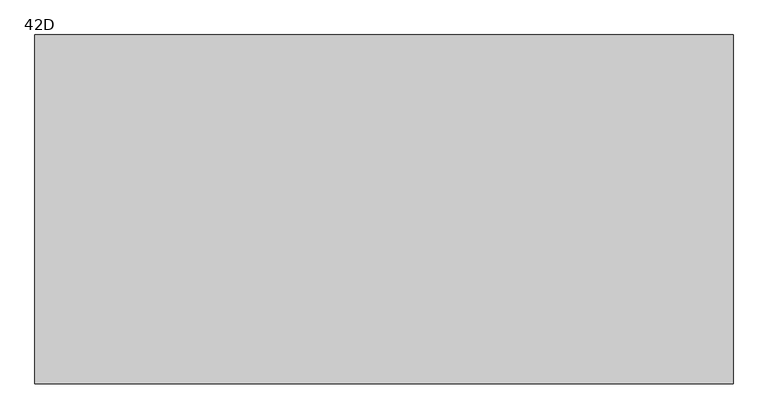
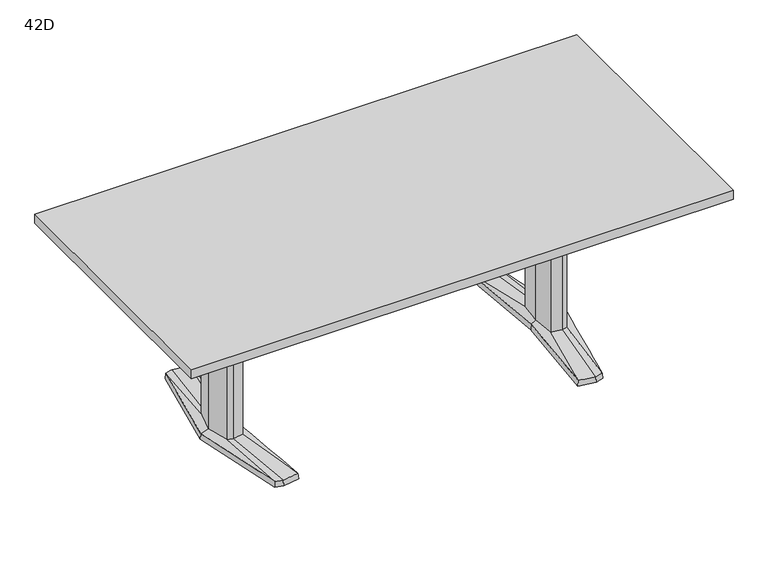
"""IFC4 building model written with IfcOpenShell, lengths in millimetres: furniture geometry, Coalesse_AM_Table_Conference_ETable2_Rectangular_84in_AluminiumBase : 42D."""

from ifc_helpers import new_model, si_unit, frame, origin, place, context, project, spatial, polyline, outline, extrude, source, transform, mapped, element, save
from ifc_brep_helpers import plane_surface, spline_surface, advanced_brep


def furniture_42d_29a239c2(model_context):
    return source(origin(), model_context, "Body", "SolidModel", [
        advanced_brep(
        [(614.8503471, -379.3768856, 25.4), (644.5756636, -371.5332654, 25.4), (668.2327243, -89.293702, 36.5125), (648.9795254, -94.605478, 36.5125), (606.0521001, -87.0529327, 36.5125), (551.7612538, -368.5071562, 25.4), (597.9364207, 0.0, 36.5125), (579.8389754, 0.3970149, 25.4), (606.0521001, 87.0529327, 36.5125), (551.7615002, 368.5172593, 25.4), (648.9795254, 94.605478, 36.5125), (614.8502233, 379.3769183, 25.4), (668.2327243, 89.293702, 36.5125), (644.7535458, 371.4863276, 25.4), (692.1595251, 0.0, 36.5125), (721.4851663, 0.0003516, 25.4), (578.2468742, 0.3968871, 3.175), (550.06875, 369.8367279, 3.175), (614.9213004, 381.0, 3.175), (646.1093245, 372.7704151, 3.175), (723.10625, 0.0, 3.175), (645.9309817, -372.8174744, 3.175), (614.9213004, -381.0, 3.175), (550.06875, -369.8264415, 3.175), (649.5979264, 107.6121478, 3.175), (594.3065451, 97.8843184, 3.175), (585.1810887, 0.0, 3.175), (594.3065451, -97.8843184, 3.175), (649.5979264, -107.6121478, 3.175), (678.6183473, -99.6056872, 3.175), (705.3083085, 0.0, 3.175), (678.6183473, 99.6056872, 3.175), (613.4286812, 346.9152841, 3.175), (557.7811371, 337.3364985, 3.175), (560.1889918, 324.8641942, 3.175), (612.8600644, 333.9306305, 3.175), (648.6725609, 324.4807859, 3.175), (647.5544526, 337.9105158, 3.175), (613.4286812, -346.9152841, 3.175), (647.5544526, -337.9105158, 3.175), (648.6725609, -324.4807859, 3.175), (612.8600644, -333.9306305, 3.175), (560.1889918, -324.8641942, 3.175), (557.7811371, -337.3364985, 3.175), (649.5979264, 107.6121478, 0.0), (678.6183473, 99.6056872, 0.0), (705.3083085, 0.0, 0.0), (678.6183473, -99.6056872, 0.0), (649.5979264, -107.6121478, 0.0), (594.3065451, -97.8843184, 0.0), (585.1810887, 0.0, 0.0), (594.3065451, 97.8843184, 0.0), (613.4286812, 346.9152841, 0.0), (647.5544526, 337.9105158, 0.0), (648.6725609, 324.4807859, 0.0), (612.8600644, 333.9306305, 0.0), (560.1889918, 324.8641942, 0.0), (557.7811371, 337.3364985, 0.0), (613.4286812, -346.9152841, 0.0), (557.7811371, -337.3364985, 0.0), (560.1889918, -324.8641942, 0.0), (612.8600644, -333.9306305, 0.0), (648.6725609, -324.4807859, 0.0), (647.5544526, -337.9105158, 0.0), (668.2327243, 89.293702, 698.5), (648.9795254, 94.605478, 698.5), (606.0521001, 87.0529327, 698.5), (597.9364207, 0.0, 698.5), (606.0521001, -87.0529327, 698.5), (648.9795254, -94.605478, 698.5), (668.2327243, -89.293702, 698.5), (692.1595251, 0.0, 698.5)],
        [
            (0, 1),
            (1, 2),
            (2, 3),
            (3, 0),
            (3, 4),
            (4, 5),
            (5, 0),
            (4, 6),
            (6, 7),
            (7, 5),
            (6, 8),
            (8, 9),
            (9, 7),
            (8, 10),
            (10, 11),
            (11, 9),
            (10, 12),
            (12, 13),
            (13, 11),
            (12, 14),
            (14, 15),
            (15, 13),
            (1, 15),
            (14, 2),
            (16, 17),
            (17, 18),
            (18, 19),
            (19, 20),
            (20, 21),
            (21, 22),
            (22, 23),
            (23, 16),
            (24, 25),
            (25, 26),
            (26, 27),
            (27, 28),
            (28, 29),
            (29, 30),
            (30, 31),
            (31, 24),
            (32, 33),
            (33, 34),
            (34, 35),
            (35, 36),
            (36, 37),
            (37, 32),
            (38, 39),
            (39, 40),
            (40, 41),
            (41, 42),
            (42, 43),
            (43, 38),
            (16, 7),
            (9, 17),
            (11, 18),
            (13, 19),
            (15, 20),
            (1, 21),
            (0, 22),
            (5, 23),
            (44, 45),
            (45, 46),
            (46, 47),
            (47, 48),
            (48, 49),
            (49, 50),
            (50, 51),
            (51, 44),
            (52, 53),
            (53, 54),
            (54, 55),
            (55, 56),
            (56, 57),
            (57, 52),
            (58, 59),
            (59, 60),
            (60, 61),
            (61, 62),
            (62, 63),
            (63, 58),
            (44, 24),
            (31, 45),
            (30, 46),
            (29, 47),
            (28, 48),
            (27, 49),
            (26, 50),
            (25, 51),
            (52, 32),
            (37, 53),
            (36, 54),
            (35, 55),
            (34, 56),
            (33, 57),
            (58, 38),
            (43, 59),
            (42, 60),
            (41, 61),
            (40, 62),
            (39, 63),
            (64, 65),
            (65, 66),
            (66, 67),
            (67, 68),
            (68, 69),
            (69, 70),
            (70, 71),
            (71, 64),
            (71, 14),
            (12, 64),
            (70, 2),
            (69, 3),
            (68, 4),
            (67, 6),
            (66, 8),
            (65, 10),
        ],
        [
            spline_surface(1, 1, [[(644.5756636, -371.5332654, 25.4), (614.8503471, -379.3768856, 25.4)], [(668.2327243, -89.293702, 36.5125), (648.9795254, -94.605478, 36.5125)]], [2, 2], [2, 2], [0.0, 1.0], [0.0, 1.0]),
            spline_surface(1, 1, [[(614.8503471, -379.3768856, 25.4), (551.7612538, -368.5071562, 25.4)], [(648.9795254, -94.605478, 36.5125), (606.0521001, -87.0529327, 36.5125)]], [2, 2], [2, 2], [0.0, 1.0], [0.0, 1.0]),
            spline_surface(1, 1, [[(551.7612538, -368.5071562, 25.4), (579.8389754, 0.3970149, 25.4)], [(606.0521001, -87.0529327, 36.5125), (597.9364207, 0.0, 36.5125)]], [2, 2], [2, 2], [0.0, 1.0], [0.0, 1.0]),
            spline_surface(1, 1, [[(579.8389754, 0.3970149, 25.4), (551.7615002, 368.5172593, 25.4)], [(597.9364207, 0.0, 36.5125), (606.0521001, 87.0529327, 36.5125)]], [2, 2], [2, 2], [0.0, 1.0], [0.0, 1.0]),
            spline_surface(1, 1, [[(551.7615002, 368.5172593, 25.4), (614.8502233, 379.3769183, 25.4)], [(606.0521001, 87.0529327, 36.5125), (648.9795254, 94.605478, 36.5125)]], [2, 2], [2, 2], [0.0, 1.0], [0.0, 1.0]),
            spline_surface(1, 1, [[(614.8502233, 379.3769183, 25.4), (644.7535458, 371.4863276, 25.4)], [(648.9795254, 94.605478, 36.5125), (668.2327243, 89.293702, 36.5125)]], [2, 2], [2, 2], [0.0, 1.0], [0.0, 1.0]),
            spline_surface(1, 1, [[(644.7535458, 371.4863276, 25.4), (721.4851663, 0.0003516, 25.4)], [(668.2327243, 89.293702, 36.5125), (692.1595251, 0.0, 36.5125)]], [2, 2], [2, 2], [0.0, 1.0], [0.0, 1.0]),
            spline_surface(1, 1, [[(721.4851663, 0.0003516, 25.4), (644.5756636, -371.5332654, 25.4)], [(692.1595251, 0.0, 36.5125), (668.2327243, -89.293702, 36.5125)]], [2, 2], [2, 2], [0.0, 1.0], [0.0, 1.0]),
            plane_surface(frame((615.4216914, 0.0450143, 3.175), z_axis=(0.0, 0.0, -1.0), x_axis=(-0.9669048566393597, -0.2551372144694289, 0.0))),
            plane_surface(frame((564.1578121, 185.1168075, 3.175), z_axis=(-0.9945699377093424, -0.07585840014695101, 0.0712470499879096), x_axis=(-0.07605167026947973, 0.9971038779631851, 0.0))),
            plane_surface(frame((582.4950252, 375.418364, 3.175), z_axis=(-0.1692071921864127, 0.9830019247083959, 0.07124704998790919), x_axis=(0.985506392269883, 0.16963829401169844, 0.0))),
            plane_surface(frame((630.5153124, 376.8852076, 3.175), z_axis=(0.2544888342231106, 0.9644476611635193, 0.07124704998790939), x_axis=(0.9669048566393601, -0.25513721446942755, 0.0))),
            plane_surface(frame((684.6077872, 186.3852076, 3.175), z_axis=(0.9768383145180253, 0.2017690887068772, 0.07124704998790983), x_axis=(0.20228315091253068, -0.9793270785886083, 0.0))),
            plane_surface(frame((684.5186158, -186.4087372, 3.175), z_axis=(0.9767507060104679, -0.20219276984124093, 0.07124704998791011), x_axis=(-0.2027079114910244, -0.9792392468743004, 0.0))),
            plane_surface(frame((630.426141, -376.9087372, 3.175), z_axis=(0.2544888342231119, -0.9644476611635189, 0.0712470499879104), x_axis=(-0.9669048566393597, -0.2551372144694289, 0.0))),
            plane_surface(frame((582.4950252, -375.4132207, 3.175), z_axis=(-0.16935861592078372, -0.982975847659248, 0.07124704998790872), x_axis=(-0.9854802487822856, 0.16979010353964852, 0.0))),
            plane_surface(frame((564.1578121, -184.7147772, 3.175), z_axis=(-0.9945820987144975, 0.07569878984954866, 0.07124704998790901), x_axis=(0.07589165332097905, 0.9971160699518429, 0.0))),
            plane_surface(frame((652.3571479, 106.8509046, 0.0), z_axis=(0.0, 0.0, -1.0000000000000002), x_axis=(-0.9639855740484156, 0.26595453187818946, 0.0))),
            plane_surface(frame((649.5979264, 107.6121478, 3.175), z_axis=(0.26595453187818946, 0.9639855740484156, 0.0), x_axis=(0.0, 0.0, -1.0))),
            plane_surface(frame((678.6183473, 99.6056872, 3.175), z_axis=(0.9659241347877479, 0.2588253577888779, 0.0), x_axis=(0.0, 0.0, -1.0))),
            plane_surface(frame((705.3083085, 0.0, 3.175), z_axis=(0.9659241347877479, -0.2588253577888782, 0.0), x_axis=(0.0, 0.0, -1.0))),
            plane_surface(frame((678.6183473, -99.6056872, 3.175), z_axis=(0.26595453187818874, -0.9639855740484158, 0.0), x_axis=(0.0, 0.0, -1.0))),
            plane_surface(frame((649.5979264, -107.6121478, 3.175), z_axis=(-0.17327617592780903, -0.9848732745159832, 0.0), x_axis=(0.0, 0.0, -1.0))),
            plane_surface(frame((594.3065451, -97.8843184, 3.175), z_axis=(-0.9956824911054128, -0.0928244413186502, 0.0), x_axis=(0.0, 0.0, -1.0))),
            plane_surface(frame((585.1810887, 0.0, 3.175), z_axis=(-0.9956824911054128, 0.09282444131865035, 0.0), x_axis=(0.0, 0.0, -1.0))),
            plane_surface(frame((594.3065451, 97.8843184, 3.175), z_axis=(-0.17327617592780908, 0.984873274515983, 0.0), x_axis=(0.0, 0.0, -1.0))),
            plane_surface(frame((613.4286812, 346.9152841, 3.175), z_axis=(0.25513721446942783, 0.9669048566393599, 0.0), x_axis=(0.0, 0.0, -1.0))),
            plane_surface(frame((647.5544526, 337.9105158, 3.175), z_axis=(0.9965521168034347, 0.0829691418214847, 0.0), x_axis=(0.0, 0.0, -1.0))),
            plane_surface(frame((648.6725609, 324.4807859, 3.175), z_axis=(-0.25513721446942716, -0.9669048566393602, 0.0), x_axis=(0.0, 0.0, -1.0))),
            plane_surface(frame((612.8600644, 333.9306305, 3.175), z_axis=(0.16963829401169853, -0.985506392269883, 0.0), x_axis=(0.0, 0.0, -1.0))),
            plane_surface(frame((560.1889918, 324.8641942, 3.175), z_axis=(-0.9818699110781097, -0.18955600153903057, 0.0), x_axis=(0.0, 0.0, -1.0))),
            plane_surface(frame((557.7811371, 337.3364985, 3.175), z_axis=(-0.16963829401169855, 0.9855063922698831, 0.0), x_axis=(0.0, 0.0, -1.0))),
            plane_surface(frame((613.4286812, -346.9152841, 3.175), z_axis=(-0.1696382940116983, -0.9855063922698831, 0.0), x_axis=(0.0, 0.0, -1.0))),
            plane_surface(frame((557.7811371, -337.3364985, 3.175), z_axis=(-0.9818699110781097, 0.18955600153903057, 0.0), x_axis=(0.0, 0.0, -1.0))),
            plane_surface(frame((560.1889918, -324.8641942, 3.175), z_axis=(0.16963829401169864, 0.985506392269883, 0.0), x_axis=(0.0, 0.0, -1.0))),
            plane_surface(frame((612.8600644, -333.9306305, 3.175), z_axis=(-0.2551372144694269, 0.9669048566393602, 0.0), x_axis=(0.0, 0.0, -1.0))),
            plane_surface(frame((648.6725609, -324.4807859, 3.175), z_axis=(0.9965521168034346, -0.0829691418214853, 0.0), x_axis=(0.0, 0.0, -1.0))),
            plane_surface(frame((647.5544526, -337.9105158, 3.175), z_axis=(0.2551372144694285, -0.9669048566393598, 0.0), x_axis=(0.0, 0.0, -1.0))),
            plane_surface(frame((692.1595251, 0.0, 698.5), z_axis=(0.0, 0.0, 1.0), x_axis=(0.25882535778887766, -0.965924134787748, 0.0))),
            plane_surface(frame((668.2327243, 89.293702, 698.5), z_axis=(0.965924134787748, 0.25882535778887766, 0.0), x_axis=(0.0, 0.0, -1.0))),
            plane_surface(frame((692.1595251, 0.0, 698.5), z_axis=(0.965924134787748, -0.2588253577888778, 0.0), x_axis=(0.0, 0.0, -1.0))),
            plane_surface(frame((668.2327243, -89.293702, 698.5), z_axis=(0.2659545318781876, -0.963985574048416, 0.0), x_axis=(0.0, 0.0, -1.0))),
            plane_surface(frame((648.9795254, -94.605478, 698.5), z_axis=(-0.1732761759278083, -0.9848732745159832, 0.0), x_axis=(0.0, 0.0, -1.0))),
            plane_surface(frame((606.0521001, -87.0529327, 698.5), z_axis=(-0.9956824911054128, -0.0928244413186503, 0.0), x_axis=(0.0, 0.0, -1.0))),
            plane_surface(frame((597.9364207, 0.0, 698.5), z_axis=(-0.9956824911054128, 0.09282444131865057, 0.0), x_axis=(0.0, 0.0, -1.0))),
            plane_surface(frame((606.0521001, 87.0529327, 698.5), z_axis=(-0.17327617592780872, 0.9848732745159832, 0.0), x_axis=(0.0, 0.0, -1.0))),
            plane_surface(frame((648.9795254, 94.605478, 698.5), z_axis=(0.26595453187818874, 0.9639855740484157, 0.0), x_axis=(0.0, 0.0, -1.0))),
        ],
        [
            (0, [[1, 2, 3, 4]]),
            (1, [[5, 6, 7, -4]]),
            (2, [[8, 9, 10, -6]]),
            (3, [[11, 12, 13, -9]]),
            (4, [[14, 15, 16, -12]]),
            (5, [[17, 18, 19, -15]]),
            (6, [[20, 21, 22, -18]]),
            (7, [[23, -21, 24, -2]]),
            (8, [[25, 26, 27, 28, 29, 30, 31, 32], [33, 34, 35, 36, 37, 38, 39, 40], [41, 42, 43, 44, 45, 46], [47, 48, 49, 50, 51, 52]]),
            (9, [[53, -13, 54, -25]]),
            (10, [[-54, -16, 55, -26]]),
            (11, [[-55, -19, 56, -27]]),
            (12, [[-56, -22, 57, -28]]),
            (13, [[-57, -23, 58, -29]]),
            (14, [[-58, -1, 59, -30]]),
            (15, [[-59, -7, 60, -31]]),
            (16, [[-60, -10, -53, -32]]),
            (17, [[61, 62, 63, 64, 65, 66, 67, 68]]),
            (17, [[69, 70, 71, 72, 73, 74]]),
            (17, [[75, 76, 77, 78, 79, 80]]),
            (18, [[81, -40, 82, -61]]),
            (19, [[-82, -39, 83, -62]]),
            (20, [[-83, -38, 84, -63]]),
            (21, [[-84, -37, 85, -64]]),
            (22, [[-85, -36, 86, -65]]),
            (23, [[-86, -35, 87, -66]]),
            (24, [[-87, -34, 88, -67]]),
            (25, [[-88, -33, -81, -68]]),
            (26, [[89, -46, 90, -69]]),
            (27, [[-90, -45, 91, -70]]),
            (28, [[-91, -44, 92, -71]]),
            (29, [[-92, -43, 93, -72]]),
            (30, [[-93, -42, 94, -73]]),
            (31, [[-94, -41, -89, -74]]),
            (32, [[95, -52, 96, -75]]),
            (33, [[-96, -51, 97, -76]]),
            (34, [[-97, -50, 98, -77]]),
            (35, [[-98, -49, 99, -78]]),
            (36, [[-99, -48, 100, -79]]),
            (37, [[-100, -47, -95, -80]]),
            (38, [[101, 102, 103, 104, 105, 106, 107, 108]]),
            (39, [[109, -20, 110, -108]]),
            (40, [[111, -24, -109, -107]]),
            (41, [[112, -3, -111, -106]]),
            (42, [[113, -5, -112, -105]]),
            (43, [[114, -8, -113, -104]]),
            (44, [[115, -11, -114, -103]]),
            (45, [[116, -14, -115, -102]]),
            (46, [[-110, -17, -116, -101]]),
        ],
    ),
        advanced_brep(
        [(-614.8503471, -379.3768856, 25.4), (-648.9795254, -94.605478, 36.5125), (-668.2327243, -89.293702, 36.5125), (-644.5756636, -371.5332654, 25.4), (-551.7612538, -368.5071562, 25.4), (-606.0521001, -87.0529327, 36.5125), (-579.8389754, 0.3970149, 25.4), (-597.9364207, 0.0, 36.5125), (-551.7615002, 368.5172593, 25.4), (-606.0521001, 87.0529327, 36.5125), (-614.8502233, 379.3769183, 25.4), (-648.9795254, 94.605478, 36.5125), (-644.7535458, 371.4863276, 25.4), (-668.2327243, 89.293702, 36.5125), (-721.4851663, 0.0003516, 25.4), (-692.1595251, 0.0, 36.5125), (-578.2468742, 0.3968871, 3.175), (-550.06875, -369.8264415, 3.175), (-614.9213004, -381.0, 3.175), (-645.9309817, -372.8174744, 3.175), (-723.10625, 0.0, 3.175), (-646.1093245, 372.7704151, 3.175), (-614.9213004, 381.0, 3.175), (-550.06875, 369.8367279, 3.175), (-649.5979264, 107.6121478, 3.175), (-678.6183473, 99.6056872, 3.175), (-705.3083085, 0.0, 3.175), (-678.6183473, -99.6056872, 3.175), (-649.5979264, -107.6121478, 3.175), (-594.3065451, -97.8843184, 3.175), (-585.1810887, 0.0, 3.175), (-594.3065451, 97.8843184, 3.175), (-613.4286812, 346.9152841, 3.175), (-647.5544526, 337.9105158, 3.175), (-648.6725609, 324.4807859, 3.175), (-612.8600644, 333.9306305, 3.175), (-560.1889918, 324.8641942, 3.175), (-557.7811371, 337.3364985, 3.175), (-613.4286812, -346.9152841, 3.175), (-557.7811371, -337.3364985, 3.175), (-560.1889918, -324.8641942, 3.175), (-612.8600644, -333.9306305, 3.175), (-648.6725609, -324.4807859, 3.175), (-647.5544526, -337.9105158, 3.175), (-649.5979264, 107.6121478, 0.0), (-594.3065451, 97.8843184, 0.0), (-585.1810887, 0.0, 0.0), (-594.3065451, -97.8843184, 0.0), (-649.5979264, -107.6121478, 0.0), (-678.6183473, -99.6056872, 0.0), (-705.3083085, 0.0, 0.0), (-678.6183473, 99.6056872, 0.0), (-613.4286812, 346.9152841, 0.0), (-557.7811371, 337.3364985, 0.0), (-560.1889918, 324.8641942, 0.0), (-612.8600644, 333.9306305, 0.0), (-648.6725609, 324.4807859, 0.0), (-647.5544526, 337.9105158, 0.0), (-613.4286812, -346.9152841, 0.0), (-647.5544526, -337.9105158, 0.0), (-648.6725609, -324.4807859, 0.0), (-612.8600644, -333.9306305, 0.0), (-560.1889918, -324.8641942, 0.0), (-557.7811371, -337.3364985, 0.0), (-668.2327243, 89.293702, 698.5), (-692.1595251, 0.0, 698.5), (-668.2327243, -89.293702, 698.5), (-648.9795254, -94.605478, 698.5), (-606.0521001, -87.0529327, 698.5), (-597.9364207, 0.0, 698.5), (-606.0521001, 87.0529327, 698.5), (-648.9795254, 94.605478, 698.5)],
        [
            (0, 1),
            (1, 2),
            (2, 3),
            (3, 0),
            (0, 4),
            (4, 5),
            (5, 1),
            (4, 6),
            (6, 7),
            (7, 5),
            (6, 8),
            (8, 9),
            (9, 7),
            (8, 10),
            (10, 11),
            (11, 9),
            (10, 12),
            (12, 13),
            (13, 11),
            (12, 14),
            (14, 15),
            (15, 13),
            (2, 15),
            (14, 3),
            (16, 17),
            (17, 18),
            (18, 19),
            (19, 20),
            (20, 21),
            (21, 22),
            (22, 23),
            (23, 16),
            (24, 25),
            (25, 26),
            (26, 27),
            (27, 28),
            (28, 29),
            (29, 30),
            (30, 31),
            (31, 24),
            (32, 33),
            (33, 34),
            (34, 35),
            (35, 36),
            (36, 37),
            (37, 32),
            (38, 39),
            (39, 40),
            (40, 41),
            (41, 42),
            (42, 43),
            (43, 38),
            (23, 8),
            (6, 16),
            (22, 10),
            (21, 12),
            (20, 14),
            (19, 3),
            (18, 0),
            (17, 4),
            (44, 45),
            (45, 46),
            (46, 47),
            (47, 48),
            (48, 49),
            (49, 50),
            (50, 51),
            (51, 44),
            (52, 53),
            (53, 54),
            (54, 55),
            (55, 56),
            (56, 57),
            (57, 52),
            (58, 59),
            (59, 60),
            (60, 61),
            (61, 62),
            (62, 63),
            (63, 58),
            (51, 25),
            (24, 44),
            (50, 26),
            (49, 27),
            (48, 28),
            (47, 29),
            (46, 30),
            (45, 31),
            (57, 33),
            (32, 52),
            (56, 34),
            (55, 35),
            (54, 36),
            (53, 37),
            (63, 39),
            (38, 58),
            (62, 40),
            (61, 41),
            (60, 42),
            (59, 43),
            (64, 65),
            (65, 66),
            (66, 67),
            (67, 68),
            (68, 69),
            (69, 70),
            (70, 71),
            (71, 64),
            (64, 13),
            (15, 65),
            (2, 66),
            (1, 67),
            (5, 68),
            (7, 69),
            (9, 70),
            (11, 71),
        ],
        [
            spline_surface(1, 1, [[(-644.5756636, -371.5332654, 25.4), (-668.2327243, -89.293702, 36.5125)], [(-614.8503471, -379.3768856, 25.4), (-648.9795254, -94.605478, 36.5125)]], [2, 2], [2, 2], [0.0, 1.0], [0.0, 1.0]),
            spline_surface(1, 1, [[(-614.8503471, -379.3768856, 25.4), (-648.9795254, -94.605478, 36.5125)], [(-551.7612538, -368.5071562, 25.4), (-606.0521001, -87.0529327, 36.5125)]], [2, 2], [2, 2], [0.0, 1.0], [0.0, 1.0]),
            spline_surface(1, 1, [[(-551.7612538, -368.5071562, 25.4), (-606.0521001, -87.0529327, 36.5125)], [(-579.8389754, 0.3970149, 25.4), (-597.9364207, 0.0, 36.5125)]], [2, 2], [2, 2], [0.0, 1.0], [0.0, 1.0]),
            spline_surface(1, 1, [[(-579.8389754, 0.3970149, 25.4), (-597.9364207, 0.0, 36.5125)], [(-551.7615002, 368.5172593, 25.4), (-606.0521001, 87.0529327, 36.5125)]], [2, 2], [2, 2], [0.0, 1.0], [0.0, 1.0]),
            spline_surface(1, 1, [[(-551.7615002, 368.5172593, 25.4), (-606.0521001, 87.0529327, 36.5125)], [(-614.8502233, 379.3769183, 25.4), (-648.9795254, 94.605478, 36.5125)]], [2, 2], [2, 2], [0.0, 1.0], [0.0, 1.0]),
            spline_surface(1, 1, [[(-614.8502233, 379.3769183, 25.4), (-648.9795254, 94.605478, 36.5125)], [(-644.7535458, 371.4863276, 25.4), (-668.2327243, 89.293702, 36.5125)]], [2, 2], [2, 2], [0.0, 1.0], [0.0, 1.0]),
            spline_surface(1, 1, [[(-644.7535458, 371.4863276, 25.4), (-668.2327243, 89.293702, 36.5125)], [(-721.4851663, 0.0003516, 25.4), (-692.1595251, 0.0, 36.5125)]], [2, 2], [2, 2], [0.0, 1.0], [0.0, 1.0]),
            spline_surface(1, 1, [[(-721.4851663, 0.0003516, 25.4), (-692.1595251, 0.0, 36.5125)], [(-644.5756636, -371.5332654, 25.4), (-668.2327243, -89.293702, 36.5125)]], [2, 2], [2, 2], [0.0, 1.0], [0.0, 1.0]),
            plane_surface(frame((-615.4216914, 0.0450143, 3.175), z_axis=(0.0, 0.0, -1.0), x_axis=(0.9669048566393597, -0.2551372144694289, 0.0))),
            plane_surface(frame((-564.1578121, 185.1168075, 3.175), z_axis=(0.9945699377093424, -0.07585840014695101, 0.0712470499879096), x_axis=(0.07605167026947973, 0.9971038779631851, 0.0))),
            plane_surface(frame((-582.4950252, 375.418364, 3.175), z_axis=(0.1692071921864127, 0.9830019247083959, 0.07124704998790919), x_axis=(-0.985506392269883, 0.16963829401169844, 0.0))),
            plane_surface(frame((-630.5153124, 376.8852076, 3.175), z_axis=(-0.2544888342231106, 0.9644476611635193, 0.07124704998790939), x_axis=(-0.9669048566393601, -0.25513721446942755, 0.0))),
            plane_surface(frame((-684.6077872, 186.3852076, 3.175), z_axis=(-0.9768383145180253, 0.2017690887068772, 0.07124704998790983), x_axis=(-0.20228315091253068, -0.9793270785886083, 0.0))),
            plane_surface(frame((-684.5186158, -186.4087372, 3.175), z_axis=(-0.9767507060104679, -0.20219276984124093, 0.07124704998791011), x_axis=(0.2027079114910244, -0.9792392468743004, 0.0))),
            plane_surface(frame((-630.426141, -376.9087372, 3.175), z_axis=(-0.2544888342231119, -0.9644476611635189, 0.0712470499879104), x_axis=(0.9669048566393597, -0.2551372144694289, 0.0))),
            plane_surface(frame((-582.4950252, -375.4132207, 3.175), z_axis=(0.16935861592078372, -0.982975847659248, 0.07124704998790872), x_axis=(0.9854802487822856, 0.16979010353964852, 0.0))),
            plane_surface(frame((-564.1578121, -184.7147772, 3.175), z_axis=(0.9945820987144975, 0.07569878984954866, 0.07124704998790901), x_axis=(-0.07589165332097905, 0.9971160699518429, 0.0))),
            plane_surface(frame((-652.3571479, 106.8509046, 0.0), z_axis=(0.0, 0.0, -1.0000000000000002), x_axis=(0.9639855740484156, 0.26595453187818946, 0.0))),
            plane_surface(frame((-649.5979264, 107.6121478, 3.175), z_axis=(-0.26595453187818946, 0.9639855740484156, 0.0), x_axis=(0.0, 0.0, -1.0))),
            plane_surface(frame((-678.6183473, 99.6056872, 3.175), z_axis=(-0.9659241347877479, 0.2588253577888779, 0.0), x_axis=(0.0, 0.0, -1.0))),
            plane_surface(frame((-705.3083085, 0.0, 3.175), z_axis=(-0.9659241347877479, -0.2588253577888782, 0.0), x_axis=(0.0, 0.0, -1.0))),
            plane_surface(frame((-678.6183473, -99.6056872, 3.175), z_axis=(-0.26595453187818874, -0.9639855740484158, 0.0), x_axis=(0.0, 0.0, -1.0))),
            plane_surface(frame((-649.5979264, -107.6121478, 3.175), z_axis=(0.17327617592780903, -0.9848732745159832, 0.0), x_axis=(0.0, 0.0, -1.0))),
            plane_surface(frame((-594.3065451, -97.8843184, 3.175), z_axis=(0.9956824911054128, -0.0928244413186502, 0.0), x_axis=(0.0, 0.0, -1.0))),
            plane_surface(frame((-585.1810887, 0.0, 3.175), z_axis=(0.9956824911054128, 0.09282444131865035, 0.0), x_axis=(0.0, 0.0, -1.0))),
            plane_surface(frame((-594.3065451, 97.8843184, 3.175), z_axis=(0.17327617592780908, 0.984873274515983, 0.0), x_axis=(0.0, 0.0, -1.0))),
            plane_surface(frame((-613.4286812, 346.9152841, 3.175), z_axis=(-0.25513721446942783, 0.9669048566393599, 0.0), x_axis=(0.0, 0.0, -1.0))),
            plane_surface(frame((-647.5544526, 337.9105158, 3.175), z_axis=(-0.9965521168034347, 0.0829691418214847, 0.0), x_axis=(0.0, 0.0, -1.0))),
            plane_surface(frame((-648.6725609, 324.4807859, 3.175), z_axis=(0.25513721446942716, -0.9669048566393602, 0.0), x_axis=(0.0, 0.0, -1.0))),
            plane_surface(frame((-612.8600644, 333.9306305, 3.175), z_axis=(-0.16963829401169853, -0.985506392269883, 0.0), x_axis=(0.0, 0.0, -1.0))),
            plane_surface(frame((-560.1889918, 324.8641942, 3.175), z_axis=(0.9818699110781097, -0.18955600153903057, 0.0), x_axis=(0.0, 0.0, -1.0))),
            plane_surface(frame((-557.7811371, 337.3364985, 3.175), z_axis=(0.16963829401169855, 0.9855063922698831, 0.0), x_axis=(0.0, 0.0, -1.0))),
            plane_surface(frame((-613.4286812, -346.9152841, 3.175), z_axis=(0.1696382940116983, -0.9855063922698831, 0.0), x_axis=(0.0, 0.0, -1.0))),
            plane_surface(frame((-557.7811371, -337.3364985, 3.175), z_axis=(0.9818699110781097, 0.18955600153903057, 0.0), x_axis=(0.0, 0.0, -1.0))),
            plane_surface(frame((-560.1889918, -324.8641942, 3.175), z_axis=(-0.16963829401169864, 0.985506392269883, 0.0), x_axis=(0.0, 0.0, -1.0))),
            plane_surface(frame((-612.8600644, -333.9306305, 3.175), z_axis=(0.2551372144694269, 0.9669048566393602, 0.0), x_axis=(0.0, 0.0, -1.0))),
            plane_surface(frame((-648.6725609, -324.4807859, 3.175), z_axis=(-0.9965521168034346, -0.0829691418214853, 0.0), x_axis=(0.0, 0.0, -1.0))),
            plane_surface(frame((-647.5544526, -337.9105158, 3.175), z_axis=(-0.2551372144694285, -0.9669048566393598, 0.0), x_axis=(0.0, 0.0, -1.0))),
            plane_surface(frame((-692.1595251, 0.0, 698.5), z_axis=(0.0, 0.0, 1.0), x_axis=(-0.25882535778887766, -0.965924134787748, 0.0))),
            plane_surface(frame((-668.2327243, 89.293702, 698.5), z_axis=(-0.965924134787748, 0.25882535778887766, 0.0), x_axis=(0.0, 0.0, -1.0))),
            plane_surface(frame((-692.1595251, 0.0, 698.5), z_axis=(-0.965924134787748, -0.2588253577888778, 0.0), x_axis=(0.0, 0.0, -1.0))),
            plane_surface(frame((-668.2327243, -89.293702, 698.5), z_axis=(-0.2659545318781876, -0.963985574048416, 0.0), x_axis=(0.0, 0.0, -1.0))),
            plane_surface(frame((-648.9795254, -94.605478, 698.5), z_axis=(0.1732761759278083, -0.9848732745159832, 0.0), x_axis=(0.0, 0.0, -1.0))),
            plane_surface(frame((-606.0521001, -87.0529327, 698.5), z_axis=(0.9956824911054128, -0.0928244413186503, 0.0), x_axis=(0.0, 0.0, -1.0))),
            plane_surface(frame((-597.9364207, 0.0, 698.5), z_axis=(0.9956824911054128, 0.09282444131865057, 0.0), x_axis=(0.0, 0.0, -1.0))),
            plane_surface(frame((-606.0521001, 87.0529327, 698.5), z_axis=(0.17327617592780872, 0.9848732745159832, 0.0), x_axis=(0.0, 0.0, -1.0))),
            plane_surface(frame((-648.9795254, 94.605478, 698.5), z_axis=(-0.26595453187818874, 0.9639855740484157, 0.0), x_axis=(0.0, 0.0, -1.0))),
        ],
        [
            (0, [[1, 2, 3, 4]]),
            (1, [[-1, 5, 6, 7]]),
            (2, [[-6, 8, 9, 10]]),
            (3, [[-9, 11, 12, 13]]),
            (4, [[-12, 14, 15, 16]]),
            (5, [[-15, 17, 18, 19]]),
            (6, [[-18, 20, 21, 22]]),
            (7, [[-3, 23, -21, 24]]),
            (8, [[25, 26, 27, 28, 29, 30, 31, 32], [33, 34, 35, 36, 37, 38, 39, 40], [41, 42, 43, 44, 45, 46], [47, 48, 49, 50, 51, 52]]),
            (9, [[-32, 53, -11, 54]]),
            (10, [[-31, 55, -14, -53]]),
            (11, [[-30, 56, -17, -55]]),
            (12, [[-29, 57, -20, -56]]),
            (13, [[-28, 58, -24, -57]]),
            (14, [[-27, 59, -4, -58]]),
            (15, [[-26, 60, -5, -59]]),
            (16, [[-25, -54, -8, -60]]),
            (17, [[61, 62, 63, 64, 65, 66, 67, 68]]),
            (17, [[69, 70, 71, 72, 73, 74]]),
            (17, [[75, 76, 77, 78, 79, 80]]),
            (18, [[-68, 81, -33, 82]]),
            (19, [[-67, 83, -34, -81]]),
            (20, [[-66, 84, -35, -83]]),
            (21, [[-65, 85, -36, -84]]),
            (22, [[-64, 86, -37, -85]]),
            (23, [[-63, 87, -38, -86]]),
            (24, [[-62, 88, -39, -87]]),
            (25, [[-61, -82, -40, -88]]),
            (26, [[-74, 89, -41, 90]]),
            (27, [[-73, 91, -42, -89]]),
            (28, [[-72, 92, -43, -91]]),
            (29, [[-71, 93, -44, -92]]),
            (30, [[-70, 94, -45, -93]]),
            (31, [[-69, -90, -46, -94]]),
            (32, [[-80, 95, -47, 96]]),
            (33, [[-79, 97, -48, -95]]),
            (34, [[-78, 98, -49, -97]]),
            (35, [[-77, 99, -50, -98]]),
            (36, [[-76, 100, -51, -99]]),
            (37, [[-75, -96, -52, -100]]),
            (38, [[101, 102, 103, 104, 105, 106, 107, 108]]),
            (39, [[-101, 109, -22, 110]]),
            (40, [[-102, -110, -23, 111]]),
            (41, [[-103, -111, -2, 112]]),
            (42, [[-104, -112, -7, 113]]),
            (43, [[-105, -113, -10, 114]]),
            (44, [[-106, -114, -13, 115]]),
            (45, [[-107, -115, -16, 116]]),
            (46, [[-108, -116, -19, -109]]),
        ],
    ),
        extrude(outline(polyline([(-1066.8, -533.4), (-1066.8, 533.4), (1066.8, 533.4), (1066.8, -533.4), (-1066.8, -533.4)])), frame((0.0, 0.0, 698.5), z_axis=(0.0, 0.0, 1.0), x_axis=(1.0, 0.0, 0.0)), (0.0, 0.0, 1.0), 38.1),
        extrude(outline(polyline([(96.8375, 698.5), (103.1875, 698.5), (103.1875, 476.25), (-103.1875, 476.25), (-103.1875, 698.5), (-96.8375, 698.5), (-96.8375, 482.6), (96.8375, 482.6), (96.8375, 698.5)])), frame((-597.9364207, 0.0, 0.0), z_axis=(1.0, 0.0, 0.0), x_axis=(0.0, 1.0, 0.0)), (0.0, 0.0, 1.0), 1195.8728415),
    ])


if __name__ == "__main__":
    model = new_model("IFC4")
    model_context = context("Model", 3, world=origin())
    ifc_project = project(units=[si_unit("LENGTHUNIT", "METRE", prefix="MILLI")], contexts=[model_context])
    site = spatial("IfcSite", under=ifc_project)
    building = spatial("IfcBuilding", under=site)
    placement = place(None, origin())
    furniture_42d_shape = furniture_42d_29a239c2(model_context)
    element("IfcFurniture", 1, ObjectType="Coalesse_AM_Table_Conference_ETable2_Rectangular_84in_AluminiumBase : 42D", at=placement, inside=building, context=model_context, shape_type="MappedRepresentation", body=[
        mapped(furniture_42d_shape, transform((0.0, 0.0, 0.0), x_axis=(1.0, 0.0, 0.0), y_axis=(0.0, 1.0, 0.0), z_axis=(0.0, 0.0, 1.0))),
    ])
    save(model, "model.ifc")
